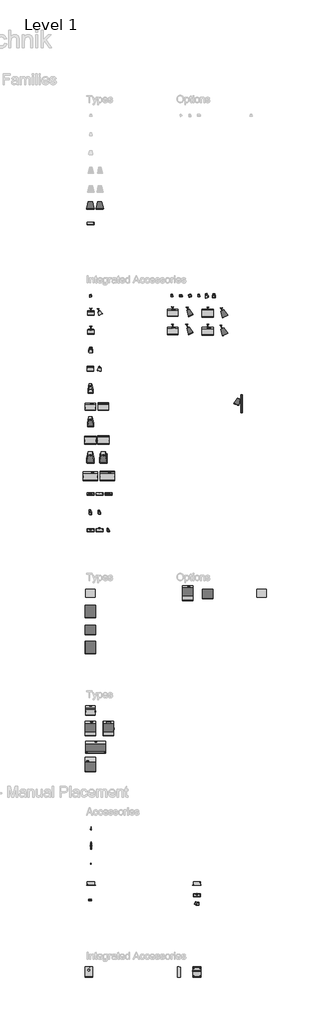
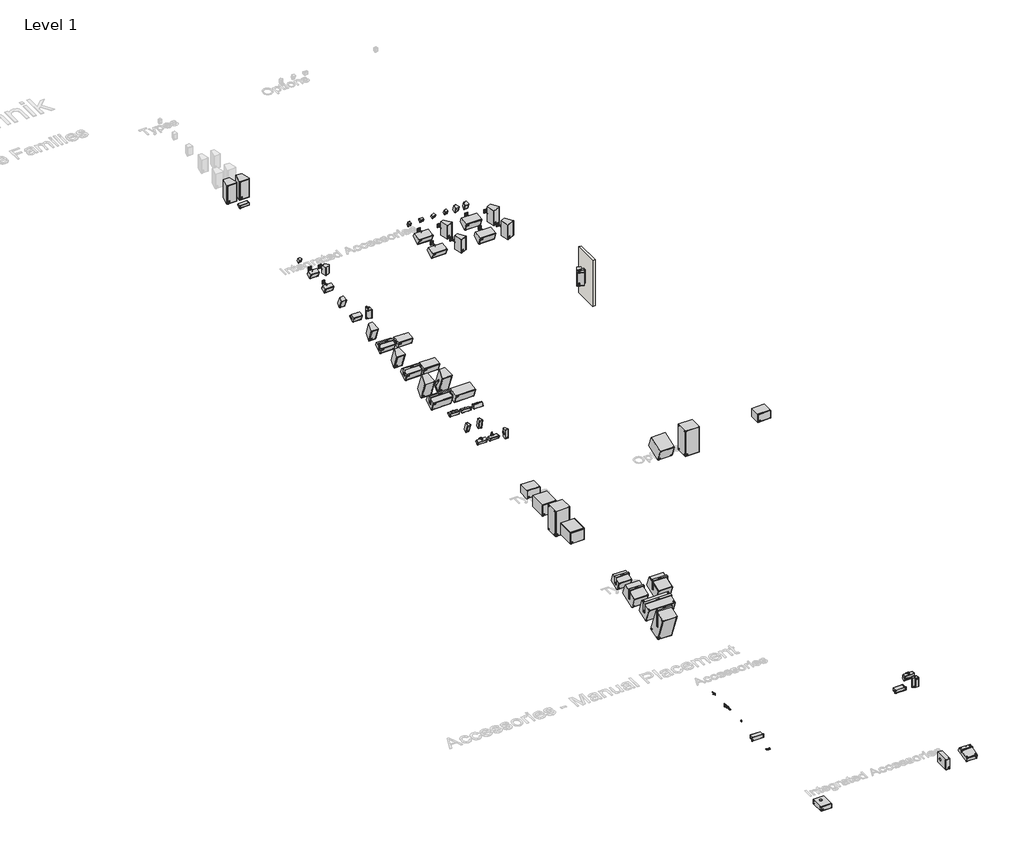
# One storey, part 1 of 12: 106 proxies, 1 wall.
"""IFC4 building model written with IfcOpenShell, lengths in millimetres."""

from ifc_helpers import new_model, si_unit, origin, origin_with_axes, place, context, project, spatial, polyline, outline, extrude, transform, mapped, element, save
from components import communication_devices_97c60789, proxy_24s_2d7f25b9, communication_devices_6301cf38, communication_devices_dab139d3, communication_devices_675c7f0f, communication_devices_358104d0, communication_devices_844caf4c, communication_devices_b0b455ff, communication_devices_e0120213, communication_devices_e3182ff1, proxy_10s_79aa2483, proxy_10s_f54c0f71, proxy_10s_61797318, proxy_10s_125b0857, proxy_10s_horizontal_bracket_cd0d0b8b, proxy_10s_horizontal_bracket_ba3221e5, proxy_10s_horizontal_bracket_22db2dfa, proxy_12s_62eb7dd9, proxy_12s_bca86ed1, proxy_12s_02db009f, proxy_12s_horizontal_bracket_cdcb445a, proxy_12s_horizontal_bracket_10b1cf9d, proxy_12s_sub_2a9edee9, proxy_12s_sub_cb7f461c, proxy_12s_sub_horizontal_bracket_de33758e, proxy_18s_sub_8416c1b3, proxy_18s_sub_96205f55, proxy_21s_sub_79dd9c0d, proxy_21s_sub_c40fc60f, proxy_21s_sub_991d3e1e, proxy_21s_sub_horizontal_bracket_4cf1d9cc, proxy_24s_20e2b4ed, proxy_24s_46e50888, proxy_24s_horizontal_bracket_f759a5f4, proxy_24s_horizontal_bracket_bb8fb8dd, proxy_27s_sub_921b6ecd, proxy_27s_sub_db3ca03a, proxy_44s_6743a1f7, proxy_44s_87138d56, proxy_44s_ee3669df, proxy_44s_1473d0bb, proxy_44s_b701b6bb, proxy_44s_5af9e7c8, proxy_44s_4462d177, proxy_44s_524f0f77, proxy_44s_8543937a, proxy_44s_24e2fab3, proxy_44s_b15d02b6, proxy_44s_backbox_da645d2b, proxy_44s_backbox_51589d41, proxy_44s_mounting_bracket_416f4c9d, proxy_44s_mounting_bracket_1f6d09f7, proxy_44s_mounting_bracket_82e6f1c7, proxy_4s_803dc05e, proxy_4s_9db8a935, proxy_4s_93626263, proxy_4s_2210255e, proxy_5s_1bd1272a, proxy_5s_22a98614, proxy_8s_5a40f470, proxy_8s_2740bf52, proxy_8s_6c60cdf4, proxy_8s_a2fef5f0, proxy_8s_horizontal_bracket_b8a0a3da, proxy_8s_horizontal_bracket_507ac9af, b8_horizontal_bracket_c61ec636, bi8_sub_5164e3e7, bi8_sub_f5dac4f3, bi8_sub_5dedd92b, wall_mount_l_aa618b3f, wall_mount_l_5b5687d1, wall_mount_m_60f821db, wall_mount_m_07799ee1

model = new_model("IFC4")

# Units and contexts
model_context = context("Model", 3, world=origin())
ifc_project = project(units=[si_unit("LENGTHUNIT", "METRE", prefix="MILLI")], contexts=[model_context])

# Site, building, storey
site = spatial("IfcSite", under=ifc_project)
building = spatial("IfcBuilding", under=site)
storey = spatial("IfcBuildingStorey", under=building, Name="Level 1", Elevation=0.0)

# Proxies
placement = place(None, origin())
communication_devices_shape = communication_devices_97c60789(model_context)
element("IfcBuildingElementProxy", 1, Name="d&b E8 l E12 Flying Adapter : E8 l E12 Flying Adapter", ObjectType="d&b E8 l E12 Flying Adapter : E8 l E12 Flying Adapter", at=placement, inside=storey, context=model_context, shape_type="MappedRepresentation", body=[
    mapped(communication_devices_shape, transform((-11234.6063199, -22914.0150222, 0.0), x_axis=(1.0, 0.0, 0.0), y_axis=(0.0, 1.0, 0.0), z_axis=(0.0, 0.0, 1.0))),
])
proxy_24s_shape = proxy_24s_2d7f25b9(model_context)
element("IfcBuildingElementProxy", 2, Name="d&b xS-Series 24S Point Source : 24S-D", ObjectType="d&b xS-Series 24S Point Source : 24S-D", at=placement, inside=storey, context=model_context, shape_type="MappedRepresentation", body=[
    mapped(proxy_24s_shape, transform((-10751.9323727, 11646.5012301, 1000.0), x_axis=(1.0, 0.0, 0.0), y_axis=(0.0, 1.0, 0.0), z_axis=(0.0, 0.0, 1.0))),
])
communication_devices_2_shape = communication_devices_6301cf38(model_context)
element("IfcBuildingElementProxy", 3, Name="d&b xS-Series 21 Sub Flying Bracket : 21S Sub Flying Bracket", ObjectType="d&b xS-Series 21 Sub Flying Bracket : 21S Sub Flying Bracket", at=placement, inside=storey, context=model_context, shape_type="MappedRepresentation", body=[
    mapped(communication_devices_2_shape, transform((-11261.6434304, -19353.4987699, 1000.0), x_axis=(1.0, 0.0, 0.0), y_axis=(0.0, 1.0, 0.0), z_axis=(0.0, 0.0, 1.0))),
])
communication_devices_3_shape = communication_devices_dab139d3(model_context)
element("IfcBuildingElementProxy", 4, Name="d&b VP Flying Adapter : VP Flying Adapter", ObjectType="d&b VP Flying Adapter : VP Flying Adapter", at=placement, inside=storey, context=model_context, shape_type="MappedRepresentation", body=[
    mapped(communication_devices_3_shape, transform((-11234.6063199, -23853.4987699, 0.0), x_axis=(1.0, 0.0, 0.0), y_axis=(0.0, 1.0, 0.0), z_axis=(0.0, 0.0, 1.0))),
])
communication_devices_4_shape = communication_devices_675c7f0f(model_context)
element("IfcBuildingElementProxy", 5, Name="d&b VP Flying Adapter Link : VP Flying Adapter Link", ObjectType="d&b VP Flying Adapter Link : VP Flying Adapter Link", at=placement, inside=storey, context=model_context, shape_type="MappedRepresentation", body=[
    mapped(communication_devices_4_shape, transform((-11234.6063199, -24853.4987699, 0.0), x_axis=(1.0, 0.0, 0.0), y_axis=(0.0, 1.0, 0.0), z_axis=(0.0, 0.0, 1.0))),
])
communication_devices_5_shape = communication_devices_358104d0(model_context)
element("IfcBuildingElementProxy", 6, Name="d&b xS-Series 18 l 27S Sub Horizontal Bracket : 18S l 27S Sub Horizontal Bracket", ObjectType="d&b xS-Series 18 l 27S Sub Horizontal Bracket : 18S l 27S Sub Horizontal Bracket", at=placement, inside=storey, context=model_context, shape_type="MappedRepresentation", body=[
    mapped(communication_devices_5_shape, transform((-11261.6434304, -17353.4987699, 1000.0), x_axis=(1.0, 0.0, 0.0), y_axis=(0.0, 1.0, 0.0), z_axis=(0.0, 0.0, 1.0))),
])
communication_devices_6_shape = communication_devices_844caf4c(model_context)
element("IfcBuildingElementProxy", 7, Name="d&b xS-Series 18 l 27S Sub Horizontal Bracket : 18S l 27S Sub Horizontal Bracket", ObjectType="d&b xS-Series 18 l 27S Sub Horizontal Bracket : 18S l 27S Sub Horizontal Bracket", at=placement, inside=storey, context=model_context, shape_type="MappedRepresentation", body=[
    mapped(communication_devices_6_shape, transform((-10261.6434304, -17353.4987699, 1000.0), x_axis=(1.0, 0.0, 0.0), y_axis=(0.0, 1.0, 0.0), z_axis=(0.0, 0.0, 1.0))),
])
communication_devices_7_shape = communication_devices_b0b455ff(model_context)
element("IfcBuildingElementProxy", 8, Name="d&b xS-Series 24S Flying Bracket : 24S Flying Bracket", ObjectType="d&b xS-Series 24S Flying Bracket : 24S Flying Bracket", at=placement, inside=storey, context=model_context, shape_type="MappedRepresentation", body=[
    mapped(communication_devices_7_shape, transform((-10541.6434304, -2327.091255, 1000.0), x_axis=(0.0, -1.0000000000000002, 0.0), y_axis=(1.0000000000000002, 0.0, 0.0), z_axis=(0.0, 0.0, 1.0))),
])
communication_devices_8_shape = communication_devices_e0120213(model_context)
element("IfcBuildingElementProxy", 9, Name="d&b xS-Series 44S Cluster Bracket : 44S Cluster Bracket", ObjectType="d&b xS-Series 44S Cluster Bracket : 44S Cluster Bracket", at=placement, inside=storey, context=model_context, shape_type="MappedRepresentation", body=[
    mapped(communication_devices_8_shape, transform((-11234.6063199, -26853.4987699, 0.0), x_axis=(1.0, 0.0, 0.0), y_axis=(0.0, 1.0, 0.0), z_axis=(0.0, 0.0, 1.0))),
])
element("IfcBuildingElementProxy", 10, Name="d&b xS-Series 44S Cluster Bracket : 44S Cluster Bracket", ObjectType="d&b xS-Series 44S Cluster Bracket : 44S Cluster Bracket", at=placement, inside=storey, context=model_context, shape_type="MappedRepresentation", body=[
    mapped(communication_devices_8_shape, transform((-5354.4666248, -26541.5827492, 1024.6152908), x_axis=(0.0, -0.17364817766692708, 0.9848077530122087), y_axis=(1.0, 0.0, 0.0), z_axis=(0.0, 0.9848077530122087, 0.17364817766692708))),
])
element("IfcBuildingElementProxy", 11, Name="d&b xS-Series 44S Cluster Bracket : 44S Cluster Bracket", ObjectType="d&b xS-Series 44S Cluster Bracket : 44S Cluster Bracket", at=placement, inside=storey, context=model_context, shape_type="MappedRepresentation", body=[
    mapped(communication_devices_8_shape, transform((-5284.2067924, -27009.7409937, 1000.0), x_axis=(0.9848077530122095, -0.17364817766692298, 0.0), y_axis=(0.0, 0.0, -1.0000000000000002), z_axis=(0.17364817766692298, 0.9848077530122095, 0.0))),
])
communication_devices_9_shape = communication_devices_e3182ff1(model_context)
element("IfcBuildingElementProxy", 12, Name="d&b xS-Series 44S L-Mount Adapter : 44S L-Mount Adapter", ObjectType="d&b xS-Series 44S L-Mount Adapter : 44S L-Mount Adapter", at=placement, inside=storey, context=model_context, shape_type="MappedRepresentation", body=[
    mapped(communication_devices_9_shape, transform((-11261.6434304, -4311.3404464, 1064.0), x_axis=(1.0, 0.0, 0.0), y_axis=(0.0, 1.0, 0.0), z_axis=(0.0, 0.0, 1.0))),
])
element("IfcBuildingElementProxy", 13, Name="d&b xS-Series 44S L-Mount Adapter : 44S L-Mount Adapter", ObjectType="d&b xS-Series 44S L-Mount Adapter : 44S L-Mount Adapter", at=placement, inside=storey, context=model_context, shape_type="MappedRepresentation", body=[
    mapped(communication_devices_9_shape, transform((-10761.6434304, -4311.3404464, 936.0), x_axis=(-1.0, 0.0, 0.0), y_axis=(0.0, 1.0, 0.0), z_axis=(0.0, 0.0, -1.0))),
])
element("IfcBuildingElementProxy", 14, Name="d&b xS-Series 44S L-Mount Adapter : 44S L-Mount Adapter", ObjectType="d&b xS-Series 44S L-Mount Adapter : 44S L-Mount Adapter", at=placement, inside=storey, context=model_context, shape_type="MappedRepresentation", body=[
    mapped(communication_devices_9_shape, transform((-10261.6434304, -4289.4987699, 1042.1583235), x_axis=(-1.0000000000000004, 0.0, 0.0), y_axis=(0.0, 0.0, 1.0), z_axis=(0.0, 1.0000000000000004, 0.0))),
])
proxy_10s_shape = proxy_10s_79aa2483(model_context)
element("IfcBuildingElementProxy", 15, Name="d&b xS-Series 10S Point Source : 10S", ObjectType="d&b xS-Series 10S Point Source : 10S", at=placement, inside=storey, context=model_context, shape_type="MappedRepresentation", body=[
    mapped(proxy_10s_shape, transform((-6705.1501038, 4650.1970686, 1000.0), x_axis=(1.0, 0.0, 0.0), y_axis=(0.0, 1.0, 0.0), z_axis=(0.0, 0.0, 1.0))),
])
proxy_10s_2_shape = proxy_10s_f54c0f71(model_context)
element("IfcBuildingElementProxy", 16, Name="d&b xS-Series 10S Point Source : 10S", ObjectType="d&b xS-Series 10S Point Source : 10S", at=placement, inside=storey, context=model_context, shape_type="MappedRepresentation", body=[
    mapped(proxy_10s_2_shape, transform((-5764.1712236, 4650.1970686, 1000.0), x_axis=(1.0, 0.0, 0.0), y_axis=(0.0, 1.0, 0.0), z_axis=(0.0, 0.0, 1.0))),
])
proxy_10s_3_shape = proxy_10s_61797318(model_context)
element("IfcBuildingElementProxy", 17, Name="d&b xS-Series 10S Point Source : 10S", ObjectType="d&b xS-Series 10S Point Source : 10S", at=placement, inside=storey, context=model_context, shape_type="MappedRepresentation", body=[
    mapped(proxy_10s_3_shape, transform((-11261.6434304, 1446.5012301, 1000.0), x_axis=(1.0, 0.0, 0.0), y_axis=(0.0, 1.0, 0.0), z_axis=(0.0, 0.0, 1.0))),
])
element("IfcBuildingElementProxy", 18, Name="d&b xS-Series 10S Point Source : 10S", ObjectType="d&b xS-Series 10S Point Source : 10S", at=placement, inside=storey, context=model_context, shape_type="MappedRepresentation", body=[
    mapped(proxy_10s_shape, transform((-11261.6434304, 446.5012301, 1000.0), x_axis=(1.0, 0.0, 0.0), y_axis=(0.0, 1.0, 0.0), z_axis=(0.0, 0.0, 1.0))),
])
element("IfcBuildingElementProxy", 19, Name="d&b xS-Series 10S Point Source : 10S", ObjectType="d&b xS-Series 10S Point Source : 10S", at=placement, inside=storey, context=model_context, shape_type="MappedRepresentation", body=[
    mapped(proxy_10s_shape, transform((-10541.6434304, 446.5012301, 1000.0), x_axis=(1.0, 0.0, 0.0), y_axis=(0.0, 1.0, 0.0), z_axis=(0.0, 0.0, 1.0))),
])
element("IfcBuildingElementProxy", 20, Name="d&b xS-Series 10S Point Source : 10S", ObjectType="d&b xS-Series 10S Point Source : 10S", at=placement, inside=storey, context=model_context, shape_type="MappedRepresentation", body=[
    mapped(proxy_10s_shape, transform((-6705.1501038, 5650.1970686, 1000.0), x_axis=(1.0, 0.0, 0.0), y_axis=(0.0, 1.0, 0.0), z_axis=(0.0, 0.0, 1.0))),
])
element("IfcBuildingElementProxy", 21, Name="d&b xS-Series 10S Point Source : 10S", ObjectType="d&b xS-Series 10S Point Source : 10S", at=placement, inside=storey, context=model_context, shape_type="MappedRepresentation", body=[
    mapped(proxy_10s_2_shape, transform((-5764.1712236, 5650.1970686, 1000.0), x_axis=(1.0, 0.0, 0.0), y_axis=(0.0, 1.0, 0.0), z_axis=(0.0, 0.0, 1.0))),
])
proxy_10s_4_shape = proxy_10s_125b0857(model_context)
element("IfcBuildingElementProxy", 22, Name="d&b xS-Series 10S Point Source : 10S", ObjectType="d&b xS-Series 10S Point Source : 10S", at=placement, inside=storey, context=model_context, shape_type="MappedRepresentation", body=[
    mapped(proxy_10s_4_shape, transform((-3099.2298955, 716.5012301, 1000.0), x_axis=(1.0, 0.0, 0.0), y_axis=(0.0, 1.0, 0.0), z_axis=(0.0, 0.0, 1.0))),
])
proxy_10s_horizontal_bracket_shape = proxy_10s_horizontal_bracket_cd0d0b8b(model_context)
element("IfcBuildingElementProxy", 23, Name="d&b xS-Series 10S Horizontal Bracket : 10S Horizontal Bracket", ObjectType="d&b xS-Series 10S Horizontal Bracket : 10S Horizontal Bracket", at=placement, inside=storey, context=model_context, shape_type="MappedRepresentation", body=[
    mapped(proxy_10s_horizontal_bracket_shape, transform((-3208.2003886, 707.7512301, 1000.0), x_axis=(0.0, 0.0, -1.0), y_axis=(0.0, 1.0, 0.0), z_axis=(1.0, 0.0, 0.0))),
])
proxy_10s_horizontal_bracket_2_shape = proxy_10s_horizontal_bracket_ba3221e5(model_context)
element("IfcBuildingElementProxy", 24, Name="d&b xS-Series 10S Horizontal Bracket : 10S Horizontal Bracket", ObjectType="d&b xS-Series 10S Horizontal Bracket : 10S Horizontal Bracket", at=placement, inside=storey, context=model_context, shape_type="MappedRepresentation", body=[
    mapped(proxy_10s_horizontal_bracket_2_shape, transform((-11261.6434304, 446.5012301, 948.0), x_axis=(1.0, 0.0, 0.0), y_axis=(0.0, 1.0, 0.0), z_axis=(0.0, 0.0, 1.0))),
])
proxy_10s_horizontal_bracket_3_shape = proxy_10s_horizontal_bracket_22db2dfa(model_context)
element("IfcBuildingElementProxy", 25, Name="d&b xS-Series 10S Horizontal Bracket : 10S Horizontal Bracket", ObjectType="d&b xS-Series 10S Horizontal Bracket : 10S Horizontal Bracket", at=placement, inside=storey, context=model_context, shape_type="MappedRepresentation", body=[
    mapped(proxy_10s_horizontal_bracket_3_shape, transform((-10541.6434304, 446.5012301, 1000.0), x_axis=(1.0, 0.0, 0.0), y_axis=(0.0, 1.0, 0.0), z_axis=(0.0, 0.0, 1.0))),
])
proxy_12s_shape = proxy_12s_62eb7dd9(model_context)
element("IfcBuildingElementProxy", 26, Name="d&b xS-Series 12S Point Source : 12S", ObjectType="d&b xS-Series 12S Point Source : 12S", at=placement, inside=storey, context=model_context, shape_type="MappedRepresentation", body=[
    mapped(proxy_12s_shape, transform((-4741.6434304, 5686.5012301, 1000.0), x_axis=(1.0, 0.0, 0.0), y_axis=(0.0, 1.0, 0.0), z_axis=(0.0, 0.0, 1.0))),
])
proxy_12s_2_shape = proxy_12s_bca86ed1(model_context)
element("IfcBuildingElementProxy", 27, Name="d&b xS-Series 12S Point Source : 12S", ObjectType="d&b xS-Series 12S Point Source : 12S", at=placement, inside=storey, context=model_context, shape_type="MappedRepresentation", body=[
    mapped(proxy_12s_2_shape, transform((-3864.1712236, 5650.1970686, 1000.0), x_axis=(1.0, 0.0, 0.0), y_axis=(0.0, 1.0, 0.0), z_axis=(0.0, 0.0, 1.0))),
])
element("IfcBuildingElementProxy", 28, Name="d&b xS-Series 12S Point Source : 12S", ObjectType="d&b xS-Series 12S Point Source : 12S", at=placement, inside=storey, context=model_context, shape_type="MappedRepresentation", body=[
    mapped(proxy_12s_shape, transform((-4741.6434304, 4686.5012301, 1000.0), x_axis=(1.0, 0.0, 0.0), y_axis=(0.0, 1.0, 0.0), z_axis=(0.0, 0.0, 1.0))),
])
element("IfcBuildingElementProxy", 29, Name="d&b xS-Series 12S Point Source : 12S", ObjectType="d&b xS-Series 12S Point Source : 12S", at=placement, inside=storey, context=model_context, shape_type="MappedRepresentation", body=[
    mapped(proxy_12s_2_shape, transform((-3864.1712236, 4650.1970686, 1000.0), x_axis=(1.0, 0.0, 0.0), y_axis=(0.0, 1.0, 0.0), z_axis=(0.0, 0.0, 1.0))),
])
proxy_12s_3_shape = proxy_12s_02db009f(model_context)
element("IfcBuildingElementProxy", 30, Name="d&b xS-Series 12S Point Source : 12S", ObjectType="d&b xS-Series 12S Point Source : 12S", at=placement, inside=storey, context=model_context, shape_type="MappedRepresentation", body=[
    mapped(proxy_12s_3_shape, transform((-11261.6434304, -353.4987699, 1000.0), x_axis=(1.0, 0.0, 0.0), y_axis=(0.0, 1.0, 0.0), z_axis=(0.0, 0.0, 1.0))),
])
element("IfcBuildingElementProxy", 31, Name="d&b xS-Series 12S Point Source : 12S", ObjectType="d&b xS-Series 12S Point Source : 12S", at=placement, inside=storey, context=model_context, shape_type="MappedRepresentation", body=[
    mapped(proxy_12s_shape, transform((-11261.6434304, -1353.4987699, 1000.0), x_axis=(1.0, 0.0, 0.0), y_axis=(0.0, 1.0, 0.0), z_axis=(0.0, 0.0, 1.0))),
])
element("IfcBuildingElementProxy", 32, Name="d&b xS-Series 12S Point Source : 12S", ObjectType="d&b xS-Series 12S Point Source : 12S", at=placement, inside=storey, context=model_context, shape_type="MappedRepresentation", body=[
    mapped(proxy_12s_shape, transform((-10541.6434304, -1353.4987699, 1000.0), x_axis=(1.0, 0.0, 0.0), y_axis=(0.0, 1.0, 0.0), z_axis=(0.0, 0.0, 1.0))),
])
proxy_12s_horizontal_bracket_shape = proxy_12s_horizontal_bracket_cdcb445a(model_context)
element("IfcBuildingElementProxy", 33, Name="d&b xS-Series 12S Horizontal Bracket : 12S Horizontal Bracket", ObjectType="d&b xS-Series 12S Horizontal Bracket : 12S Horizontal Bracket", at=placement, inside=storey, context=model_context, shape_type="MappedRepresentation", body=[
    mapped(proxy_12s_horizontal_bracket_shape, transform((-11261.6434304, -1376.3112699, 948.046875), x_axis=(1.0, 0.0, 0.0), y_axis=(0.0, 1.0, 0.0), z_axis=(0.0, 0.0, 1.0))),
])
proxy_12s_horizontal_bracket_2_shape = proxy_12s_horizontal_bracket_10b1cf9d(model_context)
element("IfcBuildingElementProxy", 34, Name="d&b xS-Series 12S Horizontal Bracket : 12S Horizontal Bracket", ObjectType="d&b xS-Series 12S Horizontal Bracket : 12S Horizontal Bracket", at=placement, inside=storey, context=model_context, shape_type="MappedRepresentation", body=[
    mapped(proxy_12s_horizontal_bracket_2_shape, transform((-10541.6434304, -1376.1550199, 1000.0), x_axis=(1.0, 0.0, 0.0), y_axis=(0.0, 1.0, 0.0), z_axis=(0.0, 0.0, 1.0))),
])
proxy_12s_sub_shape = proxy_12s_sub_2a9edee9(model_context)
element("IfcBuildingElementProxy", 35, Name="d&b xS-Series 12S Subwoofer : 12S Sub", ObjectType="d&b xS-Series 12S Subwoofer : 12S Sub", at=placement, inside=storey, context=model_context, shape_type="MappedRepresentation", body=[
    mapped(proxy_12s_sub_shape, transform((-11261.6434304, -9853.4987699, 1000.0), x_axis=(1.0, 0.0, 0.0), y_axis=(0.0, 1.0, 0.0), z_axis=(0.0, 0.0, 1.0))),
])
proxy_12s_sub_2_shape = proxy_12s_sub_cb7f461c(model_context)
element("IfcBuildingElementProxy", 36, Name="d&b xS-Series 12S Subwoofer : 12S Sub", ObjectType="d&b xS-Series 12S Subwoofer : 12S Sub", at=placement, inside=storey, context=model_context, shape_type="MappedRepresentation", body=[
    mapped(proxy_12s_sub_2_shape, transform((-11261.6434304, -16353.4987699, 1000.0), x_axis=(1.0, 0.0, 0.0), y_axis=(0.0, 1.0, 0.0), z_axis=(0.0, 0.0, 1.0))),
])
element("IfcBuildingElementProxy", 37, Name="d&b xS-Series 12S Subwoofer : 12S Sub", ObjectType="d&b xS-Series 12S Subwoofer : 12S Sub", at=placement, inside=storey, context=model_context, shape_type="MappedRepresentation", body=[
    mapped(proxy_12s_sub_shape, transform((-1754.4666248, -9853.4987699, 1000.0), x_axis=(1.0, 0.0, 0.0), y_axis=(0.0, 1.0, 0.0), z_axis=(0.0, 0.0, 1.0))),
])
proxy_12s_sub_horizontal_bracket_shape = proxy_12s_sub_horizontal_bracket_de33758e(model_context)
element("IfcBuildingElementProxy", 38, Name="d&b xS-Series 12S Sub Horizontal Bracket : 12S Sub Horizontal Bracket", ObjectType="d&b xS-Series 12S Sub Horizontal Bracket : 12S Sub Horizontal Bracket", at=placement, inside=storey, context=model_context, shape_type="MappedRepresentation", body=[
    mapped(proxy_12s_sub_horizontal_bracket_shape, transform((-11261.6434304, -16353.5070077, 1000.0), x_axis=(1.0, 0.0, 0.0), y_axis=(0.0, 1.0, 0.0), z_axis=(0.0, 0.0, 1.0))),
])
proxy_18s_sub_shape = proxy_18s_sub_8416c1b3(model_context)
element("IfcBuildingElementProxy", 39, Name="d&b xS-Series 18S Subwoofer : 18S Sub", ObjectType="d&b xS-Series 18S Subwoofer : 18S Sub", at=placement, inside=storey, context=model_context, shape_type="MappedRepresentation", body=[
    mapped(proxy_18s_sub_shape, transform((-11261.6434304, -10853.4987699, 1000.0), x_axis=(1.0, 0.0, 0.0), y_axis=(0.0, 1.0, 0.0), z_axis=(0.0, 0.0, 1.0))),
])
proxy_18s_sub_2_shape = proxy_18s_sub_96205f55(model_context)
element("IfcBuildingElementProxy", 40, Name="d&b xS-Series 18S Subwoofer : 18S Sub", ObjectType="d&b xS-Series 18S Subwoofer : 18S Sub", at=placement, inside=storey, context=model_context, shape_type="MappedRepresentation", body=[
    mapped(proxy_18s_sub_2_shape, transform((-11261.6434304, -17353.4987699, 1000.0), x_axis=(1.0, 0.0, 0.0), y_axis=(0.0, 1.0, 0.0), z_axis=(0.0, 0.0, 1.0))),
])
element("IfcBuildingElementProxy", 41, Name="d&b xS-Series 18S Subwoofer : 18S Sub", ObjectType="d&b xS-Series 18S Subwoofer : 18S Sub", at=placement, inside=storey, context=model_context, shape_type="MappedRepresentation", body=[
    mapped(proxy_18s_sub_2_shape, transform((-5861.6434304, -9853.4987699, 1000.0), x_axis=(1.0, 0.0, 0.0), y_axis=(0.0, 1.0, 0.0), z_axis=(0.0, 0.0, 1.0))),
])
proxy_21s_sub_shape = proxy_21s_sub_79dd9c0d(model_context)
element("IfcBuildingElementProxy", 42, Name="d&b xS-Series 21S Subwoofer : 21S Sub", ObjectType="d&b xS-Series 21S Subwoofer : 21S Sub", at=placement, inside=storey, context=model_context, shape_type="MappedRepresentation", body=[
    mapped(proxy_21s_sub_shape, transform((-11261.6434304, -11853.4987699, 1000.0), x_axis=(1.0, 0.0, 0.0), y_axis=(0.0, 1.0, 0.0), z_axis=(0.0, 0.0, 1.0))),
])
element("IfcBuildingElementProxy", 43, Name="d&b xS-Series 21S Subwoofer : 21S Sub", ObjectType="d&b xS-Series 21S Subwoofer : 21S Sub", at=placement, inside=storey, context=model_context, shape_type="MappedRepresentation", body=[
    mapped(proxy_21s_sub_shape, transform((-4754.4666248, -9853.4987699, 1000.0), x_axis=(1.0, 0.0, 0.0), y_axis=(0.0, 1.0, 0.0), z_axis=(0.0, 0.0, 1.0))),
])
proxy_21s_sub_2_shape = proxy_21s_sub_c40fc60f(model_context)
element("IfcBuildingElementProxy", 44, Name="d&b xS-Series 21S Subwoofer : 21S Sub", ObjectType="d&b xS-Series 21S Subwoofer : 21S Sub", at=placement, inside=storey, context=model_context, shape_type="MappedRepresentation", body=[
    mapped(proxy_21s_sub_2_shape, transform((-10968.1434304, -18353.4987699, 1000.0), x_axis=(1.0, 0.0, 0.0), y_axis=(0.0, 1.0, 0.0), z_axis=(0.0, 0.0, 1.0))),
])
proxy_21s_sub_3_shape = proxy_21s_sub_991d3e1e(model_context)
element("IfcBuildingElementProxy", 45, Name="d&b xS-Series 21S Subwoofer : 21S Sub", ObjectType="d&b xS-Series 21S Subwoofer : 21S Sub", at=placement, inside=storey, context=model_context, shape_type="MappedRepresentation", body=[
    mapped(proxy_21s_sub_3_shape, transform((-11261.6434304, -19353.4987699, 1000.0), x_axis=(1.0, 0.0, 0.0), y_axis=(0.0, 1.0, 0.0), z_axis=(0.0, 0.0, 1.0))),
])
proxy_21s_sub_horizontal_bracket_shape = proxy_21s_sub_horizontal_bracket_4cf1d9cc(model_context)
element("IfcBuildingElementProxy", 46, Name="d&b xS-Series 21 Sub Horizontal Bracket : 21S Sub Horizontal Bracket", ObjectType="d&b xS-Series 21 Sub Horizontal Bracket : 21S Sub Horizontal Bracket", at=placement, inside=storey, context=model_context, shape_type="MappedRepresentation", body=[
    mapped(proxy_21s_sub_horizontal_bracket_shape, transform((-10968.1434304, -18353.4987699, 1000.0), x_axis=(1.0, 0.0, 0.0), y_axis=(0.0, 1.0, 0.0), z_axis=(0.0, 0.0, 1.0))),
])
element("IfcBuildingElementProxy", 47, Name="d&b xS-Series 24S Point Source : 24S", ObjectType="d&b xS-Series 24S Point Source : 24S", at=placement, inside=storey, context=model_context, shape_type="MappedRepresentation", body=[
    mapped(proxy_24s_shape, transform((-11261.6434304, 11646.5012301, 1000.0), x_axis=(1.0, 0.0, 0.0), y_axis=(0.0, 1.0, 0.0), z_axis=(0.0, 0.0, 1.0))),
])
proxy_24s_2_shape = proxy_24s_20e2b4ed(model_context)
element("IfcBuildingElementProxy", 48, Name="d&b xS-Series 24S Point Source : 24S", ObjectType="d&b xS-Series 24S Point Source : 24S", at=placement, inside=storey, context=model_context, shape_type="MappedRepresentation", body=[
    mapped(proxy_24s_2_shape, transform((-11261.6434304, -2353.4987699, 1000.0), x_axis=(1.0, 0.0, 0.0), y_axis=(0.0, 1.0, 0.0), z_axis=(0.0, 0.0, 1.0))),
])
element("IfcBuildingElementProxy", 49, Name="d&b xS-Series 24S Point Source : 24S", ObjectType="d&b xS-Series 24S Point Source : 24S", at=placement, inside=storey, context=model_context, shape_type="MappedRepresentation", body=[
    mapped(proxy_24s_2_shape, transform((-10541.6434304, -2353.4987699, 1000.0), x_axis=(1.0, 0.0, 0.0), y_axis=(0.0, 1.0, 0.0), z_axis=(0.0, 0.0, 1.0))),
])
proxy_24s_3_shape = proxy_24s_46e50888(model_context)
element("IfcBuildingElementProxy", 50, Name="d&b xS-Series 24S Point Source : 24S", ObjectType="d&b xS-Series 24S Point Source : 24S", at=placement, inside=storey, context=model_context, shape_type="MappedRepresentation", body=[
    mapped(proxy_24s_3_shape, transform((-11261.6434304, -3353.4987699, 1000.0), x_axis=(1.0, 0.0, 0.0), y_axis=(0.0, 1.0, 0.0), z_axis=(0.0, 0.0, 1.0))),
])
element("IfcBuildingElementProxy", 51, Name="d&b xS-Series 24S Point Source : 24S", ObjectType="d&b xS-Series 24S Point Source : 24S", at=placement, inside=storey, context=model_context, shape_type="MappedRepresentation", body=[
    mapped(proxy_24s_3_shape, transform((-10324.1459106, -3353.4987699, 1000.0), x_axis=(1.0, 0.0, 0.0), y_axis=(0.0, 1.0, 0.0), z_axis=(0.0, 0.0, 1.0))),
])
proxy_24s_horizontal_bracket_shape = proxy_24s_horizontal_bracket_f759a5f4(model_context)
element("IfcBuildingElementProxy", 52, Name="d&b xS-Series 24S Horizontal Bracket : 24S Horizontal Bracket", ObjectType="d&b xS-Series 24S Horizontal Bracket : 24S Horizontal Bracket", at=placement, inside=storey, context=model_context, shape_type="MappedRepresentation", body=[
    mapped(proxy_24s_horizontal_bracket_shape, transform((-11261.6434304, -3376.3112699, 948.046875), x_axis=(1.0, 0.0, 0.0), y_axis=(0.0, 1.0, 0.0), z_axis=(0.0, 0.0, 1.0))),
])
proxy_24s_horizontal_bracket_2_shape = proxy_24s_horizontal_bracket_bb8fb8dd(model_context)
element("IfcBuildingElementProxy", 53, Name="d&b xS-Series 24S Horizontal Bracket : 24S Horizontal Bracket", ObjectType="d&b xS-Series 24S Horizontal Bracket : 24S Horizontal Bracket", at=placement, inside=storey, context=model_context, shape_type="MappedRepresentation", body=[
    mapped(proxy_24s_horizontal_bracket_2_shape, transform((-10324.1459106, -3376.3112699, 1000.0), x_axis=(1.0, 0.0, 0.0), y_axis=(0.0, 1.0, 0.0), z_axis=(0.0, 0.0, 1.0))),
])
proxy_27s_sub_shape = proxy_27s_sub_921b6ecd(model_context)
element("IfcBuildingElementProxy", 54, Name="d&b xS-Series 27S Subwoofer : 27S Sub", ObjectType="d&b xS-Series 27S Subwoofer : 27S Sub", at=placement, inside=storey, context=model_context, shape_type="MappedRepresentation", body=[
    mapped(proxy_27s_sub_shape, transform((-11261.6434304, -12853.4987699, 1000.0), x_axis=(1.0, 0.0, 0.0), y_axis=(0.0, 1.0, 0.0), z_axis=(0.0, 0.0, 1.0))),
])
proxy_27s_sub_2_shape = proxy_27s_sub_db3ca03a(model_context)
element("IfcBuildingElementProxy", 55, Name="d&b xS-Series 27S Subwoofer : 27S Sub", ObjectType="d&b xS-Series 27S Subwoofer : 27S Sub", at=placement, inside=storey, context=model_context, shape_type="MappedRepresentation", body=[
    mapped(proxy_27s_sub_2_shape, transform((-10261.6434304, -17353.4987699, 1000.0), x_axis=(1.0, 0.0, 0.0), y_axis=(0.0, 1.0, 0.0), z_axis=(0.0, 0.0, 1.0))),
])
proxy_44s_shape = proxy_44s_6743a1f7(model_context)
element("IfcBuildingElementProxy", 56, Name="d&b xS-Series 44S Point Source : 44S", ObjectType="d&b xS-Series 44S Point Source : 44S", at=placement, inside=storey, context=model_context, shape_type="MappedRepresentation", body=[
    mapped(proxy_44s_shape, transform((-5400.5064048, -27054.1802375, 1000.0), x_axis=(0.8660254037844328, -0.5000000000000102, 0.0), y_axis=(0.5000000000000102, 0.8660254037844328, 0.0), z_axis=(0.0, 0.0, 1.0))),
])
proxy_44s_2_shape = proxy_44s_87138d56(model_context)
element("IfcBuildingElementProxy", 57, Name="d&b xS-Series 44S Point Source : 44S", ObjectType="d&b xS-Series 44S Point Source : 44S", at=placement, inside=storey, context=model_context, shape_type="MappedRepresentation", body=[
    mapped(proxy_44s_2_shape, transform((-11261.6434304, 10646.5012301, 1000.0), x_axis=(1.0, 0.0, 0.0), y_axis=(0.0, 1.0, 0.0), z_axis=(0.0, 0.0, 1.0))),
])
element("IfcBuildingElementProxy", 58, Name="d&b xS-Series 44S Point Source : 44S", ObjectType="d&b xS-Series 44S Point Source : 44S", at=placement, inside=storey, context=model_context, shape_type="MappedRepresentation", body=[
    mapped(proxy_44s_2_shape, transform((-5354.4666248, -26610.6856596, 1000.0), x_axis=(1.0, 0.0, 0.0), y_axis=(0.0, 1.0, 0.0), z_axis=(0.0, 0.0, 1.0))),
])
element("IfcBuildingElementProxy", 59, Name="d&b xS-Series 44S Point Source : 44S", ObjectType="d&b xS-Series 44S Point Source : 44S", at=placement, inside=storey, context=model_context, shape_type="MappedRepresentation", body=[
    mapped(proxy_44s_2_shape, transform((-11261.6434304, -4353.4987699, 1000.0), x_axis=(1.0, 0.0, 0.0), y_axis=(0.0, 1.0, 0.0), z_axis=(0.0, 0.0, 1.0))),
])
proxy_44s_3_shape = proxy_44s_ee3669df(model_context)
element("IfcBuildingElementProxy", 60, Name="d&b xS-Series 44S Point Source : 44S", ObjectType="d&b xS-Series 44S Point Source : 44S", at=placement, inside=storey, context=model_context, shape_type="MappedRepresentation", body=[
    mapped(proxy_44s_3_shape, transform((-10761.6434304, -4353.4987699, 1000.0), x_axis=(1.0, 0.0, 0.0), y_axis=(0.0, 1.0, 0.0), z_axis=(0.0, 0.0, 1.0))),
])
proxy_44s_4_shape = proxy_44s_1473d0bb(model_context)
element("IfcBuildingElementProxy", 61, Name="d&b xS-Series 44S Point Source : 44S", ObjectType="d&b xS-Series 44S Point Source : 44S", at=placement, inside=storey, context=model_context, shape_type="MappedRepresentation", body=[
    mapped(proxy_44s_4_shape, transform((-10261.6434304, -4353.4987699, 1000.0), x_axis=(-1.0000000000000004, 0.0, 0.0), y_axis=(0.0, -1.0000000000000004, 0.0), z_axis=(0.0, 0.0, 1.0))),
])
proxy_44s_5_shape = proxy_44s_b701b6bb(model_context)
element("IfcBuildingElementProxy", 62, Name="d&b xS-Series 44S Point Source : 44S", ObjectType="d&b xS-Series 44S Point Source : 44S", at=placement, inside=storey, context=model_context, shape_type="MappedRepresentation", body=[
    mapped(proxy_44s_5_shape, transform((-11261.6434304, -5353.4987699, 1000.0), x_axis=(1.0, 0.0, 0.0), y_axis=(0.0, 1.0, 0.0), z_axis=(0.0, 0.0, 1.0))),
])
proxy_44s_6_shape = proxy_44s_5af9e7c8(model_context)
element("IfcBuildingElementProxy", 63, Name="d&b xS-Series 44S Point Source : 44S", ObjectType="d&b xS-Series 44S Point Source : 44S", at=placement, inside=storey, context=model_context, shape_type="MappedRepresentation", body=[
    mapped(proxy_44s_6_shape, transform((-10761.6434304, -5353.4987699, 1000.0), x_axis=(1.0, 0.0, 0.0), y_axis=(0.0, 1.0, 0.0), z_axis=(0.0, 0.0, 1.0))),
])
proxy_44s_7_shape = proxy_44s_4462d177(model_context)
element("IfcBuildingElementProxy", 64, Name="d&b xS-Series 44S Point Source : 44S", ObjectType="d&b xS-Series 44S Point Source : 44S", at=placement, inside=storey, context=model_context, shape_type="MappedRepresentation", body=[
    mapped(proxy_44s_7_shape, transform((-5354.4666248, -25940.9987699, 0.0), x_axis=(1.0, 0.0, 0.0), y_axis=(0.0, 1.0, 0.0), z_axis=(0.0, 0.0, 1.0))),
])
proxy_44s_8_shape = proxy_44s_524f0f77(model_context)
element("IfcBuildingElementProxy", 65, Name="d&b xS-Series 44S Point Source : 44S", ObjectType="d&b xS-Series 44S Point Source : 44S", at=placement, inside=storey, context=model_context, shape_type="MappedRepresentation", body=[
    mapped(proxy_44s_8_shape, transform((-11261.6434304, -6353.4987699, 1000.0), x_axis=(1.0, 0.0, 0.0), y_axis=(0.0, 1.0, 0.0), z_axis=(0.0, 0.0, 1.0))),
])
proxy_44s_9_shape = proxy_44s_8543937a(model_context)
element("IfcBuildingElementProxy", 66, Name="d&b xS-Series 44S Point Source : 44S", ObjectType="d&b xS-Series 44S Point Source : 44S", at=placement, inside=storey, context=model_context, shape_type="MappedRepresentation", body=[
    mapped(proxy_44s_9_shape, transform((-10761.6434304, -6353.4987699, 1000.0), x_axis=(1.0, 0.0, 0.0), y_axis=(0.0, 1.0, 0.0), z_axis=(0.0, 0.0, 1.0))),
])
element("IfcBuildingElementProxy", 67, Name="d&b xS-Series 44S Point Source : 44S", ObjectType="d&b xS-Series 44S Point Source : 44S", at=placement, inside=storey, context=model_context, shape_type="MappedRepresentation", body=[
    mapped(proxy_44s_shape, transform((-10261.6434304, -6353.4987699, 1000.0), x_axis=(1.0, 0.0, 0.0), y_axis=(0.0, 1.0, 0.0), z_axis=(0.0, 0.0, 1.0))),
])
proxy_44s_10_shape = proxy_44s_24e2fab3(model_context)
element("IfcBuildingElementProxy", 68, Name="d&b xS-Series 44S Point Source : 44S", ObjectType="d&b xS-Series 44S Point Source : 44S", at=placement, inside=storey, context=model_context, shape_type="MappedRepresentation", body=[
    mapped(proxy_44s_10_shape, transform((-5354.4666248, -26586.3379451, 909.1837495), x_axis=(1.0, 0.0, 0.0), y_axis=(0.0, 1.0, 0.0), z_axis=(0.0, 0.0, 1.0))),
])
proxy_44s_11_shape = proxy_44s_b15d02b6(model_context)
element("IfcBuildingElementProxy", 69, Name="d&b xS-Series 44S Point Source : 44S", ObjectType="d&b xS-Series 44S Point Source : 44S", at=placement, inside=storey, context=model_context, shape_type="MappedRepresentation", body=[
    mapped(proxy_44s_11_shape, transform((-5309.4666248, -27078.7302541, 1000.0), x_axis=(1.0, 0.0, 0.0), y_axis=(0.0, 1.0, 0.0), z_axis=(0.0, 0.0, 1.0))),
])
proxy_44s_backbox_shape = proxy_44s_backbox_da645d2b(model_context)
element("IfcBuildingElementProxy", 70, Name="d&b xS-Series 44S Backbox : 44S Backbox", ObjectType="d&b xS-Series 44S Backbox : 44S Backbox", at=placement, inside=storey, context=model_context, shape_type="MappedRepresentation", body=[
    mapped(proxy_44s_backbox_shape, transform((-11234.6063199, -25940.9987699, 0.0), x_axis=(1.0, 0.0, 0.0), y_axis=(0.0, 1.0, 0.0), z_axis=(0.0, 0.0, 1.0))),
])
proxy_44s_backbox_2_shape = proxy_44s_backbox_51589d41(model_context)
element("IfcBuildingElementProxy", 71, Name="d&b xS-Series 44S Backbox : 44S Backbox", ObjectType="d&b xS-Series 44S Backbox : 44S Backbox", at=placement, inside=storey, context=model_context, shape_type="MappedRepresentation", body=[
    mapped(proxy_44s_backbox_2_shape, transform((-5354.4666248, -25940.9987699, 0.0), x_axis=(1.0, 0.0, 0.0), y_axis=(0.0, 1.0, 0.0), z_axis=(0.0, 0.0, 1.0))),
])
proxy_44s_mounting_bracket_shape = proxy_44s_mounting_bracket_416f4c9d(model_context)
element("IfcBuildingElementProxy", 72, Name="d&b xS-Series 44S Mounting Bracket : 44S Mounting Bracket", ObjectType="d&b xS-Series 44S Mounting Bracket : 44S Mounting Bracket", at=placement, inside=storey, context=model_context, shape_type="MappedRepresentation", body=[
    mapped(proxy_44s_mounting_bracket_shape, transform((-11261.6434304, -6296.6356192, 1046.1650984), x_axis=(1.0, 0.0, 0.0), y_axis=(0.0, 0.4999999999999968, -0.8660254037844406), z_axis=(0.0, 0.8660254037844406, 0.4999999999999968))),
])
proxy_44s_mounting_bracket_2_shape = proxy_44s_mounting_bracket_1f6d09f7(model_context)
element("IfcBuildingElementProxy", 73, Name="d&b xS-Series 44S Mounting Bracket : 44S Mounting Bracket", ObjectType="d&b xS-Series 44S Mounting Bracket : 44S Mounting Bracket", at=placement, inside=storey, context=model_context, shape_type="MappedRepresentation", body=[
    mapped(proxy_44s_mounting_bracket_2_shape, transform((-10761.6434304, -6280.2954263, 1001.3605779), x_axis=(-1.0, 0.0, 0.0), y_axis=(0.0, -0.1736481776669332, 0.9848077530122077), z_axis=(0.0, 0.9848077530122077, 0.1736481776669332))),
])
proxy_44s_mounting_bracket_3_shape = proxy_44s_mounting_bracket_82e6f1c7(model_context)
element("IfcBuildingElementProxy", 74, Name="d&b xS-Series 44S Mounting Bracket : 44S Mounting Bracket", ObjectType="d&b xS-Series 44S Mounting Bracket : 44S Mounting Bracket", at=placement, inside=storey, context=model_context, shape_type="MappedRepresentation", body=[
    mapped(proxy_44s_mounting_bracket_3_shape, transform((-10285.4925614, -6284.2607649, 1000.5286813), x_axis=(0.0, 0.0, 1.0), y_axis=(0.9848077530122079, 0.1736481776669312, 0.0), z_axis=(-0.1736481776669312, 0.9848077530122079, 0.0))),
])
element("IfcBuildingElementProxy", 75, Name="d&b xS-Series 44S Mounting Bracket : 44S Mounting Bracket", ObjectType="d&b xS-Series 44S Mounting Bracket : 44S Mounting Bracket", at=placement, inside=storey, context=model_context, shape_type="MappedRepresentation", body=[
    mapped(proxy_44s_mounting_bracket_3_shape, transform((-5354.4666248, -26538.3454629, 1023.5320389), x_axis=(1.0, 0.0, 0.0), y_axis=(0.0, 0.17364817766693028, -0.9848077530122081), z_axis=(0.0, 0.9848077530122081, 0.17364817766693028))),
])
element("IfcBuildingElementProxy", 76, Name="d&b xS-Series 44S Mounting Bracket : 44S Mounting Bracket", ObjectType="d&b xS-Series 44S Mounting Bracket : 44S Mounting Bracket", at=placement, inside=storey, context=model_context, shape_type="MappedRepresentation", body=[
    mapped(proxy_44s_mounting_bracket_3_shape, transform((-5283.0679904, -27006.8955154, 1000.4415359), x_axis=(0.0, 0.0, -1.0), y_axis=(-0.9848077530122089, 0.17364817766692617, 0.0), z_axis=(0.17364817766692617, 0.9848077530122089, 0.0))),
])
proxy_4s_shape = proxy_4s_803dc05e(model_context)
element("IfcBuildingElementProxy", 77, Name="d&b xS-Series 4S Point Source : 4S", ObjectType="d&b xS-Series 4S Point Source : 4S", at=placement, inside=storey, context=model_context, shape_type="MappedRepresentation", body=[
    mapped(proxy_4s_shape, transform((-11261.6434304, 6646.5012301, 1000.0), x_axis=(1.0, 0.0, 0.0), y_axis=(0.0, 1.0, 0.0), z_axis=(0.0, 0.0, 1.0))),
])
proxy_4s_2_shape = proxy_4s_9db8a935(model_context)
element("IfcBuildingElementProxy", 78, Name="d&b xS-Series 4S Point Source : 4S", ObjectType="d&b xS-Series 4S Point Source : 4S", at=placement, inside=storey, context=model_context, shape_type="MappedRepresentation", body=[
    mapped(proxy_4s_2_shape, transform((-6741.6434304, 6646.5012301, 1000.0), x_axis=(1.0, 0.0, 0.0), y_axis=(0.0, 1.0, 0.0), z_axis=(0.0, 0.0, 1.0))),
])
proxy_4s_3_shape = proxy_4s_93626263(model_context)
element("IfcBuildingElementProxy", 79, Name="d&b xS-Series 4S Point Source : 4S", ObjectType="d&b xS-Series 4S Point Source : 4S", at=placement, inside=storey, context=model_context, shape_type="MappedRepresentation", body=[
    mapped(proxy_4s_3_shape, transform((-6241.6434304, 6646.5012301, 1000.0), x_axis=(1.0, 0.0, 0.0), y_axis=(0.0, 1.0, 0.0), z_axis=(0.0, 0.0, 1.0))),
])
proxy_4s_4_shape = proxy_4s_2210255e(model_context)
element("IfcBuildingElementProxy", 80, Name="d&b xS-Series 4S Point Source : 4S", ObjectType="d&b xS-Series 4S Point Source : 4S", at=placement, inside=storey, context=model_context, shape_type="MappedRepresentation", body=[
    mapped(proxy_4s_4_shape, transform((-5741.6434304, 6646.5012301, 1000.0), x_axis=(1.0, 0.0, 0.0), y_axis=(0.0, 1.0, 0.0), z_axis=(0.0, 0.0, 1.0))),
])
element("IfcBuildingElementProxy", 81, Name="d&b xS-Series 4S Point Source : 4S", ObjectType="d&b xS-Series 4S Point Source : 4S", at=placement, inside=storey, context=model_context, shape_type="MappedRepresentation", body=[
    mapped(proxy_4s_2_shape, transform((-5241.6434304, 6646.5012301, 1000.0), x_axis=(1.0, 0.0, 0.0), y_axis=(0.0, 1.0, 0.0), z_axis=(0.0, 0.0, 1.0))),
])
proxy_5s_shape = proxy_5s_1bd1272a(model_context)
element("IfcBuildingElementProxy", 82, Name="d&b xS-Series 5S Point Source : 5S", ObjectType="d&b xS-Series 5S Point Source : 5S", at=placement, inside=storey, context=model_context, shape_type="MappedRepresentation", body=[
    mapped(proxy_5s_shape, transform((-4817.989509, 6646.5012301, 1000.0), x_axis=(1.0, 0.0, 0.0), y_axis=(0.0, 1.0, 0.0), z_axis=(0.0, 0.0, 1.0))),
])
proxy_5s_2_shape = proxy_5s_22a98614(model_context)
element("IfcBuildingElementProxy", 83, Name="d&b xS-Series 5S Point Source : 5S", ObjectType="d&b xS-Series 5S Point Source : 5S", at=placement, inside=storey, context=model_context, shape_type="MappedRepresentation", body=[
    mapped(proxy_5s_2_shape, transform((-4416.9632934, 6646.5012301, 1000.0), x_axis=(1.0, 0.0, 0.0), y_axis=(0.0, 1.0, 0.0), z_axis=(0.0, 0.0, 1.0))),
])
proxy_8s_shape = proxy_8s_5a40f470(model_context)
element("IfcBuildingElementProxy", 84, Name="d&b xS-Series 8S Point Source : 8S", ObjectType="d&b xS-Series 8S Point Source : 8S", at=placement, inside=storey, context=model_context, shape_type="MappedRepresentation", body=[
    mapped(proxy_8s_shape, transform((-11241.6434304, 5686.5012301, 1000.0), x_axis=(1.0, 0.0, 0.0), y_axis=(0.0, 1.0, 0.0), z_axis=(0.0, 0.0, 1.0))),
])
proxy_8s_2_shape = proxy_8s_2740bf52(model_context)
element("IfcBuildingElementProxy", 85, Name="d&b xS-Series 8S Point Source : 8S", ObjectType="d&b xS-Series 8S Point Source : 8S", at=placement, inside=storey, context=model_context, shape_type="MappedRepresentation", body=[
    mapped(proxy_8s_2_shape, transform((-10741.6434304, 5686.5012301, 1000.0), x_axis=(1.0, 0.0, 0.0), y_axis=(0.0, 1.0, 0.0), z_axis=(0.0, 0.0, 1.0))),
])
element("IfcBuildingElementProxy", 86, Name="d&b xS-Series 8S Point Source : 8S", ObjectType="d&b xS-Series 8S Point Source : 8S", at=placement, inside=storey, context=model_context, shape_type="MappedRepresentation", body=[
    mapped(proxy_8s_shape, transform((-11267.30045, 2575.9439695, 1000.0), x_axis=(1.0, 0.0, 0.0), y_axis=(0.0, 1.0, 0.0), z_axis=(0.0, 0.0, 1.0))),
])
proxy_8s_3_shape = proxy_8s_6c60cdf4(model_context)
element("IfcBuildingElementProxy", 87, Name="d&b xS-Series 8S Point Source : 8S", ObjectType="d&b xS-Series 8S Point Source : 8S", at=placement, inside=storey, context=model_context, shape_type="MappedRepresentation", body=[
    mapped(proxy_8s_3_shape, transform((-11241.6434304, 3646.5668501, 1000.0), x_axis=(1.0, 0.0, 0.0), y_axis=(0.0, 1.0, 0.0), z_axis=(0.0, 0.0, 1.0))),
])
proxy_8s_4_shape = proxy_8s_a2fef5f0(model_context)
element("IfcBuildingElementProxy", 88, Name="d&b xS-Series 8S Point Source : 8S", ObjectType="d&b xS-Series 8S Point Source : 8S", at=placement, inside=storey, context=model_context, shape_type="MappedRepresentation", body=[
    mapped(proxy_8s_4_shape, transform((-10767.30045, 2575.9439695, 1000.0), x_axis=(1.0, 0.0, 0.0), y_axis=(0.0, 1.0, 0.0), z_axis=(0.0, 0.0, 1.0))),
])
element("IfcBuildingElementProxy", 89, Name="d&b xS-Series 8S Point Source : 8S", ObjectType="d&b xS-Series 8S Point Source : 8S", at=placement, inside=storey, context=model_context, shape_type="MappedRepresentation", body=[
    mapped(proxy_8s_shape, transform((-11241.6434304, 4650.1970686, 1000.0), x_axis=(1.0, 0.0, 0.0), y_axis=(0.0, 1.0, 0.0), z_axis=(0.0, 0.0, 1.0))),
])
proxy_8s_horizontal_bracket_shape = proxy_8s_horizontal_bracket_b8a0a3da(model_context)
element("IfcBuildingElementProxy", 90, Name="d&b xS-Series 8S Horizontal Bracket : 8S Horizontal Bracket", ObjectType="d&b xS-Series 8S Horizontal Bracket : 8S Horizontal Bracket", at=placement, inside=storey, context=model_context, shape_type="MappedRepresentation", body=[
    mapped(proxy_8s_horizontal_bracket_shape, transform((-11267.30045, 2575.9439695, 1000.0), x_axis=(-1.0, 0.0, 0.0), y_axis=(0.0, -1.0, 0.0), z_axis=(0.0, 0.0, 1.0))),
])
proxy_8s_horizontal_bracket_2_shape = proxy_8s_horizontal_bracket_507ac9af(model_context)
element("IfcBuildingElementProxy", 91, Name="d&b xS-Series 8S Horizontal Bracket : 8S Horizontal Bracket", ObjectType="d&b xS-Series 8S Horizontal Bracket : 8S Horizontal Bracket", at=placement, inside=storey, context=model_context, shape_type="MappedRepresentation", body=[
    mapped(proxy_8s_horizontal_bracket_2_shape, transform((-10767.30045, 2575.9439695, 1000.0), x_axis=(-1.0, 0.0, 0.0), y_axis=(0.0, -1.0, 0.0), z_axis=(0.0, 0.0, 1.0))),
])
b8_horizontal_bracket_shape = b8_horizontal_bracket_c61ec636(model_context)
element("IfcBuildingElementProxy", 92, Name="d&b B8 Horizontal Bracket : B8 Horizontal Bracket", ObjectType="d&b B8 Horizontal Bracket : B8 Horizontal Bracket", at=placement, inside=storey, context=model_context, shape_type="MappedRepresentation", body=[
    mapped(b8_horizontal_bracket_shape, transform((-5354.4666248, -30853.4987699, 200.0), x_axis=(1.0, 0.0, 0.0), y_axis=(0.0, 1.0, 0.0), z_axis=(0.0, 0.0, 1.0))),
])
bi8_sub_shape = bi8_sub_5164e3e7(model_context)
element("IfcBuildingElementProxy", 93, Name="d&b Bi8 Subwoofer : Bi8 Sub", ObjectType="d&b Bi8 Subwoofer : Bi8 Sub", at=placement, inside=storey, context=model_context, shape_type="MappedRepresentation", body=[
    mapped(bi8_sub_shape, transform((-11354.4666248, -30853.4987699, 82.25), x_axis=(1.0, 0.0, 0.0), y_axis=(0.0, 1.0, 0.0), z_axis=(0.0, 0.0, 1.0))),
])
bi8_sub_2_shape = bi8_sub_f5dac4f3(model_context)
element("IfcBuildingElementProxy", 94, Name="d&b Bi8 Subwoofer : Bi8 Sub", ObjectType="d&b Bi8 Subwoofer : Bi8 Sub", at=placement, inside=storey, context=model_context, shape_type="MappedRepresentation", body=[
    mapped(bi8_sub_2_shape, transform((-6354.4666248, -30853.4987699, 218.0), x_axis=(1.0, 0.0, 0.0), y_axis=(0.0, 1.0, 0.0), z_axis=(0.0, 0.0, 1.0))),
])
bi8_sub_3_shape = bi8_sub_5dedd92b(model_context)
element("IfcBuildingElementProxy", 95, Name="d&b Bi8 Subwoofer : Bi8 Sub", ObjectType="d&b Bi8 Subwoofer : Bi8 Sub", at=placement, inside=storey, context=model_context, shape_type="MappedRepresentation", body=[
    mapped(bi8_sub_3_shape, transform((-5354.4666248, -30853.4987699, 200.0), x_axis=(1.0, 0.0, 0.0), y_axis=(0.0, 1.0, 0.0), z_axis=(0.0, 0.0, 1.0))),
])
wall_mount_l_shape = wall_mount_l_aa618b3f(model_context)
element("IfcBuildingElementProxy", 96, Name="d&b xS-Series Wall Mount L : Wall Mount L", ObjectType="d&b xS-Series Wall Mount L : Wall Mount L", at=placement, inside=storey, context=model_context, shape_type="MappedRepresentation", body=[
    mapped(wall_mount_l_shape, transform((-11241.0184304, 4746.5155622, 1035.0570647), x_axis=(1.0, 0.0, 0.0), y_axis=(0.0, 0.34202014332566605, -0.9396926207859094), z_axis=(0.0, 0.9396926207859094, 0.34202014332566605))),
])
element("IfcBuildingElementProxy", 97, Name="d&b xS-Series Wall Mount L : Wall Mount L", ObjectType="d&b xS-Series Wall Mount L : Wall Mount L", at=placement, inside=storey, context=model_context, shape_type="MappedRepresentation", body=[
    mapped(wall_mount_l_shape, transform((-6704.6032288, 4864.4261413, 1077.9730058), x_axis=(1.0, 0.0, 0.0), y_axis=(0.0, 0.3420201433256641, -0.9396926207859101), z_axis=(0.0, 0.9396926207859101, 0.3420201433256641))),
])
element("IfcBuildingElementProxy", 98, Name="d&b xS-Series Wall Mount L : Wall Mount L", ObjectType="d&b xS-Series Wall Mount L : Wall Mount L", at=placement, inside=storey, context=model_context, shape_type="MappedRepresentation", body=[
    mapped(wall_mount_l_shape, transform((-4741.0965554, 4857.9951334, 1062.4186762), x_axis=(1.0, 0.0, 0.0), y_axis=(0.0, 0.3420201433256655, -0.9396926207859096), z_axis=(0.0, 0.9396926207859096, 0.3420201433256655))),
])
wall_mount_l_2_shape = wall_mount_l_5b5687d1(model_context)
element("IfcBuildingElementProxy", 99, Name="d&b xS-Series Wall Mount L : Wall Mount L", ObjectType="d&b xS-Series Wall Mount L : Wall Mount L", at=placement, inside=storey, context=model_context, shape_type="MappedRepresentation", body=[
    mapped(wall_mount_l_2_shape, transform((-5838.1294194, 4861.7787487, 1000.46875), x_axis=(0.9063077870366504, 0.4226182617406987, 0.0), y_axis=(0.0, 0.0, -1.0000000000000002), z_axis=(-0.4226182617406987, 0.9063077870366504, 0.0))),
])
element("IfcBuildingElementProxy", 100, Name="d&b xS-Series Wall Mount L : Wall Mount L", ObjectType="d&b xS-Series Wall Mount L : Wall Mount L", at=placement, inside=storey, context=model_context, shape_type="MappedRepresentation", body=[
    mapped(wall_mount_l_2_shape, transform((-3941.3286043, 4815.5844613, 1000.46875), x_axis=(0.9063077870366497, 0.4226182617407, 0.0), y_axis=(0.0, 0.0, -1.0), z_axis=(-0.4226182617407, 0.9063077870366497, 0.0))),
])
wall_mount_m_shape = wall_mount_m_60f821db(model_context)
element("IfcBuildingElementProxy", 101, Name="d&b xS-Series Wall Mount M : Wall Mount M", ObjectType="d&b xS-Series Wall Mount M : Wall Mount M", at=placement, inside=storey, context=model_context, shape_type="MappedRepresentation", body=[
    mapped(wall_mount_m_shape, transform((-11241.0184304, 5782.8197237, 1035.0570647), x_axis=(1.0, 0.0, 0.0), y_axis=(0.0, 0.34202014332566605, -0.9396926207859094), z_axis=(0.0, 0.9396926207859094, 0.34202014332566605))),
])
element("IfcBuildingElementProxy", 102, Name="d&b xS-Series Wall Mount M : Wall Mount M", ObjectType="d&b xS-Series Wall Mount M : Wall Mount M", at=placement, inside=storey, context=model_context, shape_type="MappedRepresentation", body=[
    mapped(wall_mount_m_shape, transform((-6704.6032288, 5864.4261413, 1077.9730058), x_axis=(1.0, 0.0, 0.0), y_axis=(0.0, 0.3420201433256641, -0.9396926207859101), z_axis=(0.0, 0.9396926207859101, 0.3420201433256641))),
])
element("IfcBuildingElementProxy", 103, Name="d&b xS-Series Wall Mount M : Wall Mount M", ObjectType="d&b xS-Series Wall Mount M : Wall Mount M", at=placement, inside=storey, context=model_context, shape_type="MappedRepresentation", body=[
    mapped(wall_mount_m_shape, transform((-4741.0965554, 5857.9951334, 1062.4186762), x_axis=(1.0, 0.0, 0.0), y_axis=(0.0, 0.3420201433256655, -0.9396926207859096), z_axis=(0.0, 0.9396926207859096, 0.3420201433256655))),
])
wall_mount_m_2_shape = wall_mount_m_07799ee1(model_context)
element("IfcBuildingElementProxy", 104, Name="d&b xS-Series Wall Mount M : Wall Mount M", ObjectType="d&b xS-Series Wall Mount M : Wall Mount M", at=placement, inside=storey, context=model_context, shape_type="MappedRepresentation", body=[
    mapped(wall_mount_m_2_shape, transform((-10784.9519261, 5779.4023836, 1000.46875), x_axis=(0.9063077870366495, 0.4226182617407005, 0.0), y_axis=(0.0, 0.0, -1.0), z_axis=(-0.4226182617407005, 0.9063077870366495, 0.0))),
])
element("IfcBuildingElementProxy", 105, Name="d&b xS-Series Wall Mount M : Wall Mount M", ObjectType="d&b xS-Series Wall Mount M : Wall Mount M", at=placement, inside=storey, context=model_context, shape_type="MappedRepresentation", body=[
    mapped(wall_mount_m_2_shape, transform((-3941.3286043, 5815.5844613, 1000.46875), x_axis=(0.9063077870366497, 0.4226182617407, 0.0), y_axis=(0.0, 0.0, -1.0), z_axis=(-0.4226182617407, 0.9063077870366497, 0.0))),
])
element("IfcBuildingElementProxy", 106, Name="d&b xS-Series Wall Mount M : Wall Mount M", ObjectType="d&b xS-Series Wall Mount M : Wall Mount M", at=placement, inside=storey, context=model_context, shape_type="MappedRepresentation", body=[
    mapped(wall_mount_m_2_shape, transform((-5838.1294194, 5861.7787487, 1000.46875), x_axis=(0.9063077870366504, 0.4226182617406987, 0.0), y_axis=(0.0, 0.0, -1.0000000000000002), z_axis=(-0.4226182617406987, 0.9063077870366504, 0.0))),
])

# Wall
element("IfcWall", 107, ObjectType="Interior Wall 100mm", at=placement, inside=storey, context=model_context, shape_type="SweptSolid", body=[
    extrude(outline(polyline([(-2921.2166391, 146.5012301), (-2921.2166391, 1146.5012301), (-2821.2166391, 1146.5012301), (-2821.2166391, 146.5012301), (-2921.2166391, 146.5012301)])), origin_with_axes(), (0.0, 0.0, 1.0), 2000.0),
])

save(model, "model.ifc")
